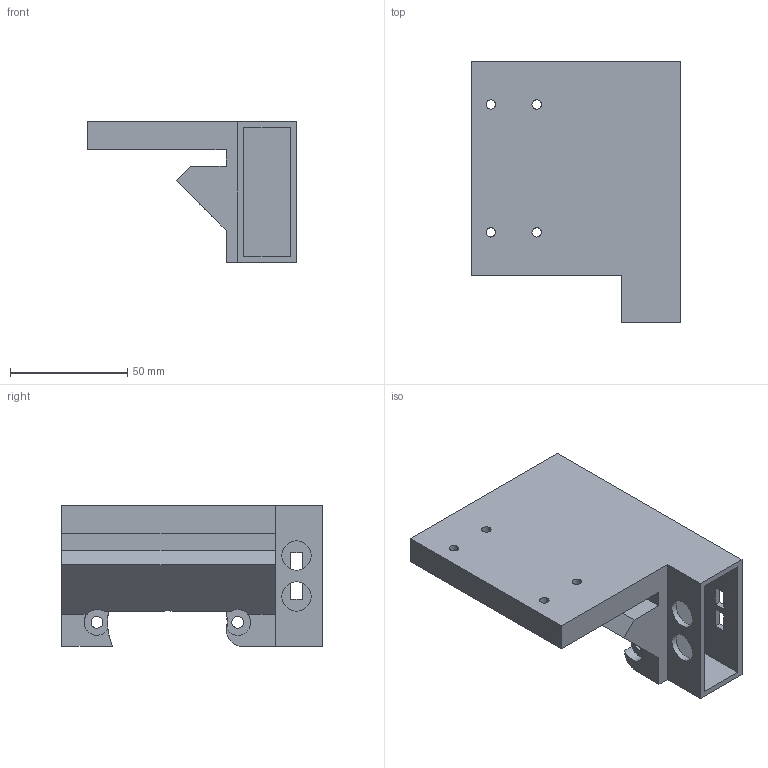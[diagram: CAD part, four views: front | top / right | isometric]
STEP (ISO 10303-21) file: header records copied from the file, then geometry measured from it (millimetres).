
FILE_DESCRIPTION(('FreeCAD Model'),'2;1');
FILE_NAME('/home/mike/Documents/3D/FreeCAD/CNC/STEP/MotorHolderZ.step', '2017-05-27T09:34:10',('Author'),(''), 'Open CASCADE STEP processor 6.7','FreeCAD','Unknown');
FILE_SCHEMA(('AUTOMOTIVE_DESIGN_CC2 { 1 2 10303 214 -1 1 5 4 }'));
Length unit declared in the file: millimetre
Products named in the file (1): MotorHolder
Bounding box: 89 x 111 x 60 mm (x, y, z)
Volume: 215370.4 mm3; surface area: 42964.1 mm2
Topology: 1 solids, 1 shells, 69 faces, 198 edges, 134 vertices
Faces by surface type: plane 54, cylinder 15
Full cylindrical faces by diameter (mm): 4 x4, 5 x2, 12.5 x2
Entity records: 5735 total; most frequent: CARTESIAN_POINT 1334, DIRECTION 702, LINE 437, VECTOR 437, ORIENTED_EDGE 396, PCURVE 396, DEFINITIONAL_REPRESENTATION 396, EDGE_CURVE 198
